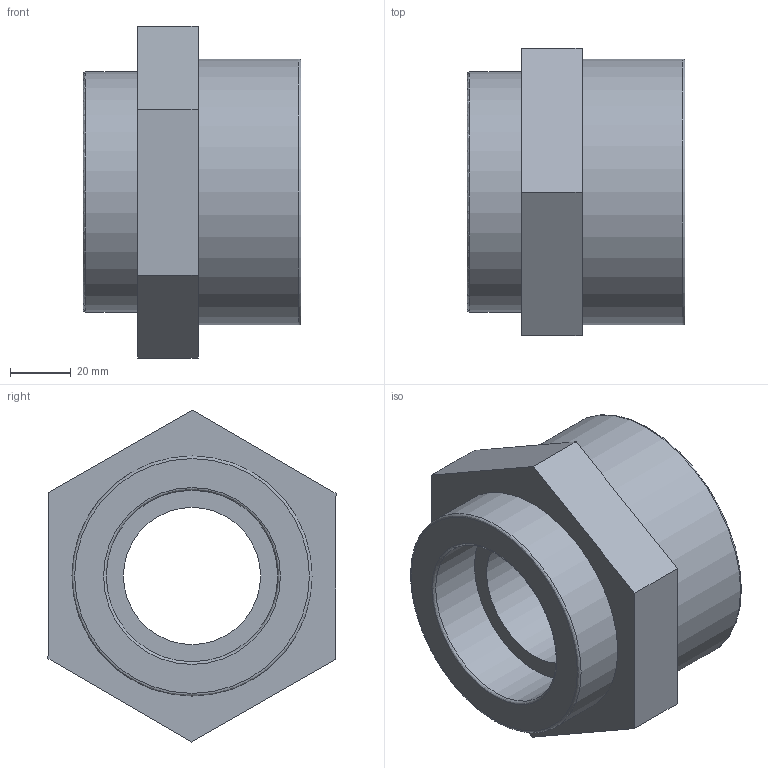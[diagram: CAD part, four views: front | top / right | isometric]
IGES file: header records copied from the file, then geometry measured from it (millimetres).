
Global section: file name: 050201030020.ipt; native system: Autodesk Inventor 2015; preprocessor: unknown; author: KIM; date: 20171207.164334; units: millimetre
Bounding box: 72 x 95.16 x 109.7 mm (x, y, z)
Volume: 240800.2 mm3; surface area: 46107.7 mm2
Topology: 1 solids, 1 shells, 21 faces, 55 edges, 40 vertices
Faces by surface type: plane 12, revolution 7, cylinder 2
Full cylindrical faces by diameter (mm): 79.318 x1, 87.884 x1
